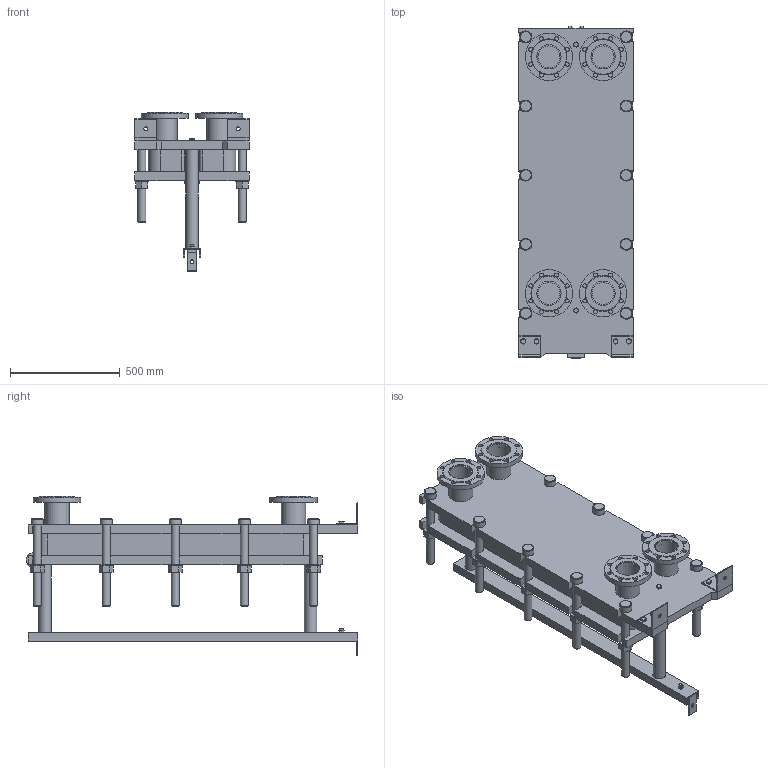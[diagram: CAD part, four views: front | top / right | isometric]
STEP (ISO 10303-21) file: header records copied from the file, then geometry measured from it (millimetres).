
FILE_DESCRIPTION(/* description */ (''),/* implementation_level */ '2;1');
FILE_NAME(/* name */ 'C:\Users\zhuro\Desktop\ENCO\TO\ЭН-04\ЭН-0,5-04-29-1.stp',/* time_stamp */ '2022-06-06T10:46:30+03:00',/* author */ ('zhuro'),/* organization */ (''),/* preprocessor_version */ 'ST-DEVELOPER v18.1',/* originating_system */ 'Autodesk Inventor 2022',/* authorisation */ '');
FILE_SCHEMA (('AUTOMOTIVE_DESIGN { 1 0 10303 214 3 1 1 }'));
Length unit declared in the file: millimetre
Products named in the file (1): ЭН-0,5-04-29-1
Bounding box: 520 x 1510 x 724.5 mm (x, y, z)
Volume: 117384400.3 mm3; surface area: 6793965.2 mm2
Topology: 45 solids, 45 shells, 668 faces, 1611 edges, 1048 vertices
Faces by surface type: plane 457, cylinder 166, cone 39, torus 6
Full cylindrical faces by diameter (mm): 8 x4, 10 x2, 16 x8, 18 x35, 36 x25, 40 x2, 42 x1, 45 x4, 54 x10, 57 x2, 60 x10, 68 x2, 100 x4, 110 x8, 215 x4
Entity records: 23607 total; most frequent: CARTESIAN_POINT 7348, DIRECTION 3371, ORIENTED_EDGE 3142, EDGE_CURVE 1571, AXIS2_PLACEMENT_3D 1199, VERTEX_POINT 1044, LINE 973, VECTOR 973
